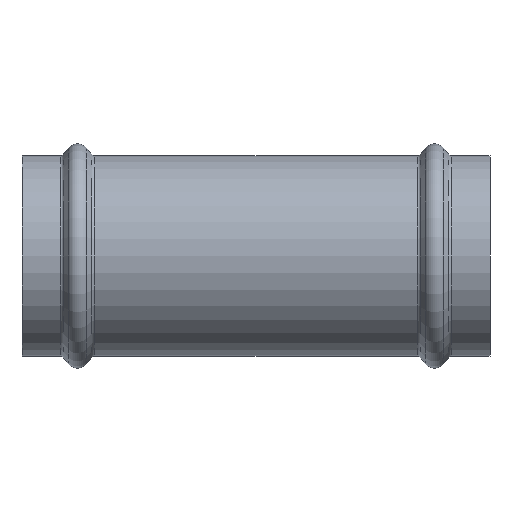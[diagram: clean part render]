
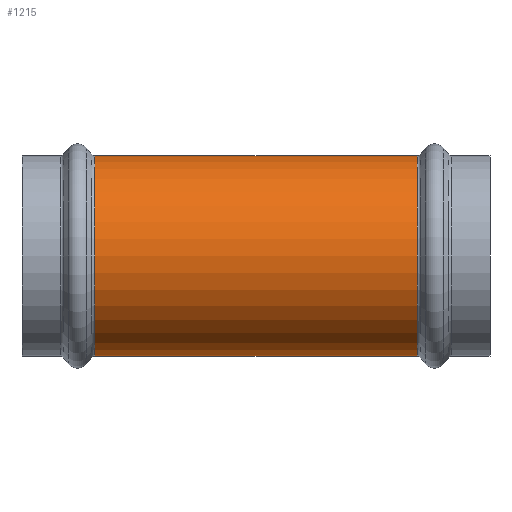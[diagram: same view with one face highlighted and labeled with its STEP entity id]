
A CAD part, front view. The second image highlights one B-rep face of the part: STEP entity #1215.
In plain terms, the highlighted cylindrical face has radius 28.9 mm (diameter 57.8 mm), a partial arc.
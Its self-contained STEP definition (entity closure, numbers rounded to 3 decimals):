
#23 = CARTESIAN_POINT ( 'NONE',  ( -46.577, 0., 28.9 ) ) ;
#93 = ORIENTED_EDGE ( 'NONE', *, *, #1061, .T. ) ;
#263 = CARTESIAN_POINT ( 'NONE',  ( 46.577, 0., 28.9 ) ) ;
#264 = VERTEX_POINT ( 'NONE', #1256 ) ;
#270 = CARTESIAN_POINT ( 'NONE',  ( -55.033, 0., 28.9 ) ) ;
#277 = ORIENTED_EDGE ( 'NONE', *, *, #605, .T. ) ;
#288 = EDGE_CURVE ( 'NONE', #1000, #430, #928, .T. ) ;
#302 = DIRECTION ( 'NONE',  ( -1., 0., 0. ) ) ;
#326 = CYLINDRICAL_SURFACE ( 'NONE', #476, 28.9 ) ;
#419 = EDGE_CURVE ( 'NONE', #264, #430, #1130, .T. ) ;
#430 = VERTEX_POINT ( 'NONE', #1182 ) ;
#474 = ORIENTED_EDGE ( 'NONE', *, *, #288, .T. ) ;
#476 = AXIS2_PLACEMENT_3D ( 'NONE', #745, #576, #704 ) ;
#514 = VECTOR ( 'NONE', #302, 1000. ) ;
#576 = DIRECTION ( 'NONE',  ( -1., 0., 0. ) ) ;
#605 = EDGE_CURVE ( 'NONE', #264, #1056, #787, .T. ) ;
#692 = AXIS2_PLACEMENT_3D ( 'NONE', #1140, #1158, #1166 ) ;
#704 = DIRECTION ( 'NONE',  ( 0., 0., 1. ) ) ;
#745 = CARTESIAN_POINT ( 'NONE',  ( -55.033, 0., 0. ) ) ;
#780 = LINE ( 'NONE', #270, #514 ) ;
#787 = CIRCLE ( 'NONE', #692, 28.9 ) ;
#827 = FACE_OUTER_BOUND ( 'NONE', #1228, .T. ) ;
#928 = CIRCLE ( 'NONE', #1207, 28.9 ) ;
#1000 = VERTEX_POINT ( 'NONE', #23 ) ;
#1012 = DIRECTION ( 'NONE',  ( 0., 0., 1. ) ) ;
#1023 = CARTESIAN_POINT ( 'NONE',  ( -46.577, 0., 0. ) ) ;
#1027 = ORIENTED_EDGE ( 'NONE', *, *, #419, .F. ) ;
#1051 = DIRECTION ( 'NONE',  ( 1., 0., 0. ) ) ;
#1056 = VERTEX_POINT ( 'NONE', #263 ) ;
#1061 = EDGE_CURVE ( 'NONE', #1056, #1000, #780, .T. ) ;
#1064 = CARTESIAN_POINT ( 'NONE',  ( -55.033, 0., -28.9 ) ) ;
#1117 = VECTOR ( 'NONE', #1153, 1000. ) ;
#1130 = LINE ( 'NONE', #1064, #1117 ) ;
#1140 = CARTESIAN_POINT ( 'NONE',  ( 46.577, 0., 0. ) ) ;
#1153 = DIRECTION ( 'NONE',  ( -1., 0., 0. ) ) ;
#1158 = DIRECTION ( 'NONE',  ( -1., 0., 0. ) ) ;
#1166 = DIRECTION ( 'NONE',  ( 0., 0., -1. ) ) ;
#1182 = CARTESIAN_POINT ( 'NONE',  ( -46.577, 0., -28.9 ) ) ;
#1207 = AXIS2_PLACEMENT_3D ( 'NONE', #1023, #1051, #1012 ) ;
#1215 = ADVANCED_FACE ( 'NONE', ( #827 ), #326, .T. ) ;
#1228 = EDGE_LOOP ( 'NONE', ( #1027, #277, #93, #474 ) ) ;
#1256 = CARTESIAN_POINT ( 'NONE',  ( 46.577, 0., -28.9 ) ) ;
